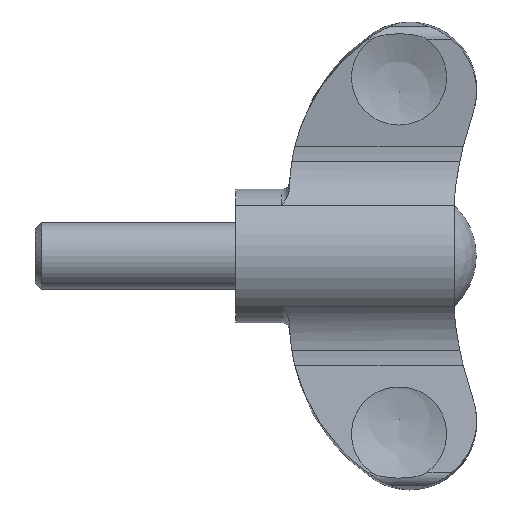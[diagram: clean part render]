
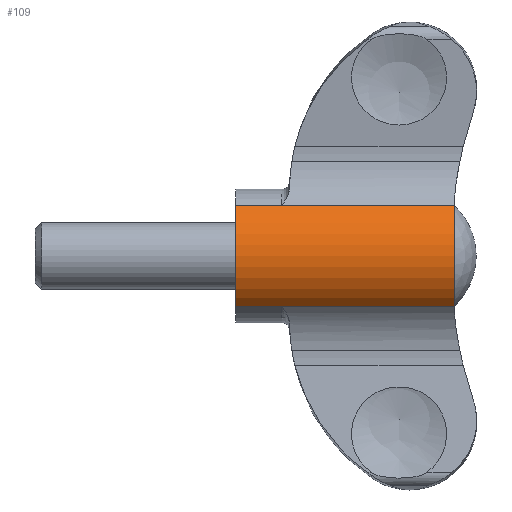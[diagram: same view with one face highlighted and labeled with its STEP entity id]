
A CAD part, top view. The second image highlights one B-rep face of the part: STEP entity #109.
In plain terms, the highlighted cylindrical face has radius 10 mm (diameter 20 mm), a partial arc.
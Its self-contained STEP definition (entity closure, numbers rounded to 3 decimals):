
#109 = ADVANCED_FACE( '', ( #197 ), #198, .T. );
#197 = FACE_OUTER_BOUND( '', #387, .T. );
#198 = CYLINDRICAL_SURFACE( '', #388, 10. );
#387 = EDGE_LOOP( '', ( #693, #694, #695, #696 ) );
#388 = AXIS2_PLACEMENT_3D( '', #697, #698, #699 );
#693 = ORIENTED_EDGE( '', *, *, #787, .F. );
#694 = ORIENTED_EDGE( '', *, *, #894, .F. );
#695 = ORIENTED_EDGE( '', *, *, #844, .T. );
#696 = ORIENTED_EDGE( '', *, *, #875, .F. );
#697 = CARTESIAN_POINT( '', ( 44., 0., 0. ) );
#698 = DIRECTION( '', ( 1., 0., 0. ) );
#699 = DIRECTION( '', ( 0., 0., 1. ) );
#787 = EDGE_CURVE( '', #915, #902, #917, .T. );
#844 = EDGE_CURVE( '', #1025, #1023, #1026, .T. );
#875 = EDGE_CURVE( '', #902, #1023, #1070, .F. );
#894 = EDGE_CURVE( '', #1025, #915, #1095, .F. );
#902 = VERTEX_POINT( '', #1100 );
#915 = VERTEX_POINT( '', #1152 );
#917 = LINE( '', #1154, #1155 );
#1023 = VERTEX_POINT( '', #1619 );
#1025 = VERTEX_POINT( '', #1621 );
#1026 = LINE( '', #1622, #1623 );
#1070 = CIRCLE( '', #1817, 10. );
#1095 = CIRCLE( '', #1966, 10. );
#1100 = CARTESIAN_POINT( '', ( 0., -7.513, 6.599 ) );
#1152 = CARTESIAN_POINT( '', ( 32.67, -7.513, 6.599 ) );
#1154 = CARTESIAN_POINT( '', ( 44., -7.513, 6.599 ) );
#1155 = VECTOR( '', #1980, 1000. );
#1619 = CARTESIAN_POINT( '', ( 0., 7.513, 6.599 ) );
#1621 = CARTESIAN_POINT( '', ( 32.67, 7.513, 6.599 ) );
#1622 = CARTESIAN_POINT( '', ( 44., 7.513, 6.599 ) );
#1623 = VECTOR( '', #2028, 1000. );
#1817 = AXIS2_PLACEMENT_3D( '', #2067, #2068, #2069 );
#1966 = AXIS2_PLACEMENT_3D( '', #2085, #2086, #2087 );
#1980 = DIRECTION( '', ( -1., 0., 0. ) );
#2028 = DIRECTION( '', ( -1., 0., 0. ) );
#2067 = CARTESIAN_POINT( '', ( 0., 0., 0. ) );
#2068 = DIRECTION( '', ( 1., 0., 0. ) );
#2069 = DIRECTION( '', ( 0., 0., -1. ) );
#2085 = CARTESIAN_POINT( '', ( 32.67, 0., 0. ) );
#2086 = DIRECTION( '', ( -1., 0., 0. ) );
#2087 = DIRECTION( '', ( 0., 0., 1. ) );
